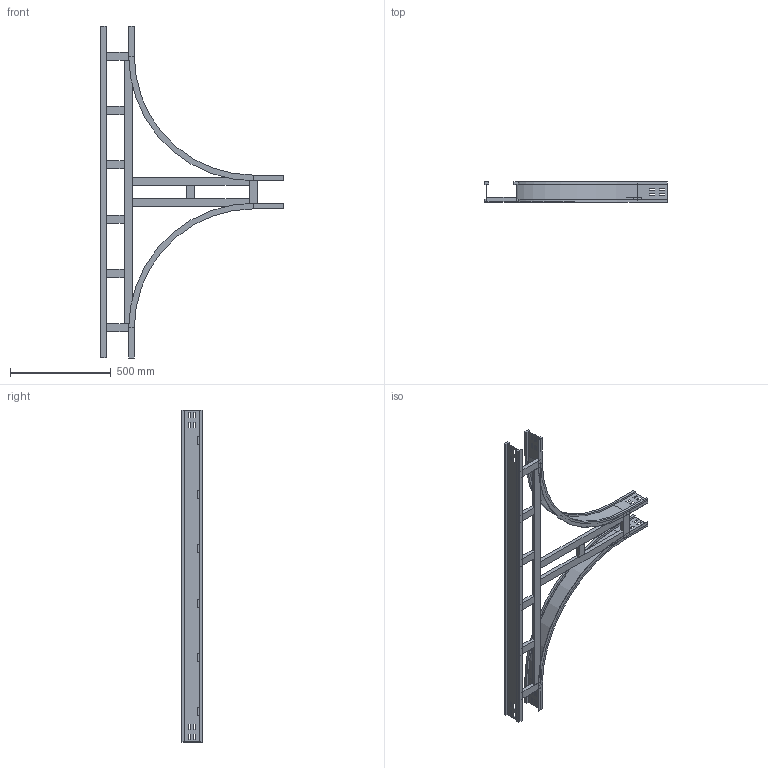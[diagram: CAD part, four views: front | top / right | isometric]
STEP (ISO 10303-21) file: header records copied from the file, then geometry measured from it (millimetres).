
FILE_DESCRIPTION (( 'STEP AP214' ), '1' );
FILE_NAME ('15S6D150.step', '2025-02-21T16:12:50', ( '' ), ( '' ), 'SwSTEP 2.0', 'SolidWorks 2023', '' );
FILE_SCHEMA (( 'AUTOMOTIVE_DESIGN' ));
Length unit declared in the file: millimetre
Products named in the file (8): LONGH.INTERNO 90°_H100_R600; TRAVERSINO_VERT_R600; TRAVERSINO_LONG._R600+150; TRAVERSINO_150; TRAVERSINO_INTERMEDIO_R600+150; 15S6D150; LONGH.RETT_H100_R600+150; TRAVERSINO_COPPIA_150
Assembly tree (14 placements, depth 2):
  15S6D150
    LONGH.INTERNO 90°_H100_R600  x2
    LONGH.RETT_H100_R600+150
    TRAVERSINO_150  x3
    TRAVERSINO_LONG._R600+150
    TRAVERSINO_INTERMEDIO_R600+150  x4
    TRAVERSINO_VERT_R600  x2
    TRAVERSINO_COPPIA_150
Bounding box: 909 x 100 x 1650 mm (x, y, z)
Volume: 4943798.5 mm3; surface area: 1654194 mm2
Topology: 14 solids, 14 shells, 252 faces, 624 edges, 400 vertices
Faces by surface type: plane 240, cylinder 12
Entity records: 4669 total; most frequent: CARTESIAN_POINT 775, ORIENTED_EDGE 744, DIRECTION 710, EDGE_CURVE 372, VECTOR 360, LINE 360, VERTEX_POINT 240, EDGE_LOOP 178
